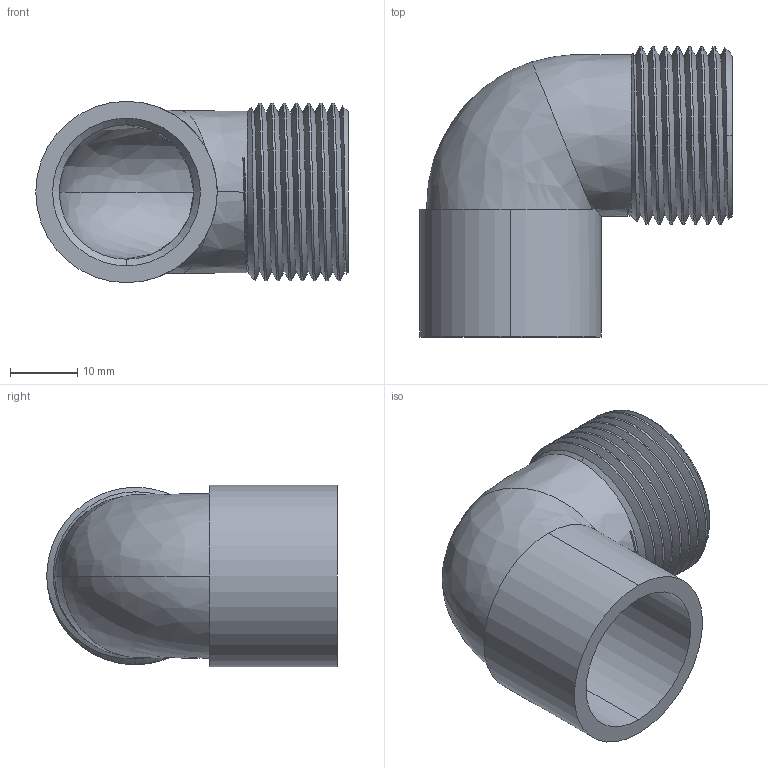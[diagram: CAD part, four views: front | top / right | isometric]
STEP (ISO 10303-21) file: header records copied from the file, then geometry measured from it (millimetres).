
FILE_DESCRIPTION (( 'STEP AP214' ), '1' );
FILE_NAME ('4092g 22X4分3.STEP', '2013-09-25T05:38:47', ( '微软用户' ), ( '微软中国' ), 'SwSTEP 2.0', 'SolidWorks 2008', '' );
FILE_SCHEMA (( 'AUTOMOTIVE_DESIGN' ));
Length unit declared in the file: millimetre
Products named in the file (1): 4092g 22X4煦3
Bounding box: 46.5 x 43.19 x 27 mm (x, y, z)
Volume: 10904.6 mm3; surface area: 9876.4 mm2
Topology: 1 solids, 1 shells, 40 faces, 112 edges, 74 vertices
Faces by surface type: cylinder 19, bspline 9, cone 8, plane 4
Entity records: 3338 total; most frequent: CARTESIAN_POINT 2450, ORIENTED_EDGE 224, DIRECTION 130, EDGE_CURVE 112, VERTEX_POINT 74, AXIS2_PLACEMENT_3D 52, EDGE_LOOP 42, FACE_OUTER_BOUND 40
